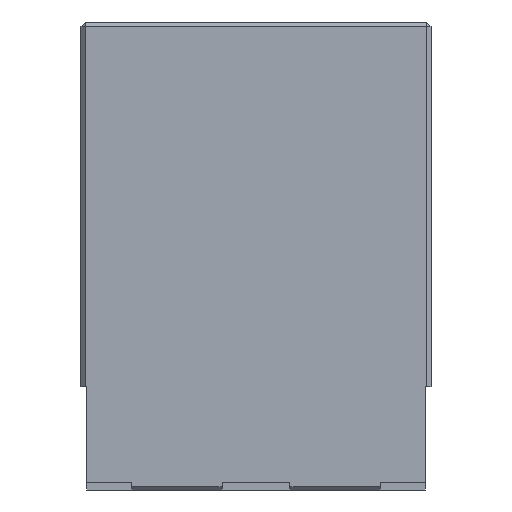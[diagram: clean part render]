
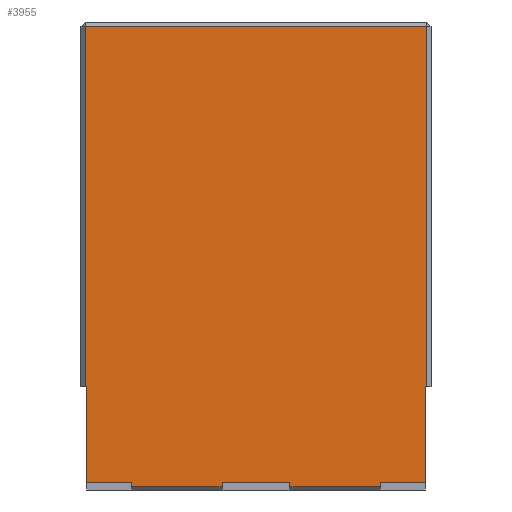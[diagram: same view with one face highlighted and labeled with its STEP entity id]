
A CAD part, front view. The second image highlights one B-rep face of the part: STEP entity #3955.
In plain terms, the highlighted planar face has unit normal (0, -1, 0).
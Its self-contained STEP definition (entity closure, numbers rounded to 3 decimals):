
#78=DIRECTION('',(-1.,0.,0.));
#79=VECTOR('',#78,0.05);
#80=CARTESIAN_POINT('',(7.525,-12.55,-16.1));
#81=LINE('',#80,#79);
#82=DIRECTION('',(1.,0.,0.));
#83=VECTOR('',#82,1.995);
#84=CARTESIAN_POINT('',(-7.475,-12.55,-20.3));
#85=LINE('',#84,#83);
#98=DIRECTION('',(0.,0.,-1.));
#99=VECTOR('',#98,0.2);
#100=CARTESIAN_POINT('',(-5.48,-12.55,-20.3));
#101=LINE('',#100,#99);
#110=DIRECTION('',(1.,0.,0.));
#111=VECTOR('',#110,3.98);
#112=CARTESIAN_POINT('',(-5.48,-12.55,-20.5));
#113=LINE('',#112,#111);
#130=DIRECTION('',(0.,0.,1.));
#131=VECTOR('',#130,0.2);
#132=CARTESIAN_POINT('',(-1.5,-12.55,-20.5));
#133=LINE('',#132,#131);
#142=DIRECTION('',(1.,0.,0.));
#143=VECTOR('',#142,3.);
#144=CARTESIAN_POINT('',(-1.5,-12.55,-20.3));
#145=LINE('',#144,#143);
#154=DIRECTION('',(0.,0.,-1.));
#155=VECTOR('',#154,0.2);
#156=CARTESIAN_POINT('',(1.5,-12.55,-20.3));
#157=LINE('',#156,#155);
#166=DIRECTION('',(1.,0.,0.));
#167=VECTOR('',#166,3.98);
#168=CARTESIAN_POINT('',(1.5,-12.55,-20.5));
#169=LINE('',#168,#167);
#182=DIRECTION('',(0.,0.,1.));
#183=VECTOR('',#182,0.2);
#184=CARTESIAN_POINT('',(5.48,-12.55,-20.5));
#185=LINE('',#184,#183);
#194=DIRECTION('',(1.,0.,0.));
#195=VECTOR('',#194,1.995);
#196=CARTESIAN_POINT('',(5.48,-12.55,-20.3));
#197=LINE('',#196,#195);
#202=DIRECTION('',(0.,0.,1.));
#203=VECTOR('',#202,4.2);
#204=CARTESIAN_POINT('',(7.475,-12.55,-20.3));
#205=LINE('',#204,#203);
#338=DIRECTION('',(0.,0.,-1.));
#339=VECTOR('',#338,4.2);
#340=CARTESIAN_POINT('',(-7.475,-12.55,-16.1));
#341=LINE('',#340,#339);
#346=DIRECTION('',(1.,0.,0.));
#347=VECTOR('',#346,0.05);
#348=CARTESIAN_POINT('',(-7.525,-12.55,-16.1));
#349=LINE('',#348,#347);
#406=DIRECTION('',(0.,0.,1.));
#407=VECTOR('',#406,15.9);
#408=CARTESIAN_POINT('',(7.525,-12.55,-16.1));
#409=LINE('',#408,#407);
#426=DIRECTION('',(-1.,0.,0.));
#427=VECTOR('',#426,15.05);
#428=CARTESIAN_POINT('',(7.525,-12.55,-0.2));
#429=LINE('',#428,#427);
#462=DIRECTION('',(0.,0.,-1.));
#463=VECTOR('',#462,15.9);
#464=CARTESIAN_POINT('',(-7.525,-12.55,-0.2));
#465=LINE('',#464,#463);
#2994=CARTESIAN_POINT('',(7.525,-12.55,-16.1));
#2996=VERTEX_POINT('',#2994);
#3002=CARTESIAN_POINT('',(7.475,-12.55,-16.1));
#3003=VERTEX_POINT('',#3002);
#3004=CARTESIAN_POINT('',(-7.475,-12.55,-20.3));
#3005=CARTESIAN_POINT('',(-5.48,-12.55,-20.3));
#3006=VERTEX_POINT('',#3004);
#3007=VERTEX_POINT('',#3005);
#3008=CARTESIAN_POINT('',(-7.475,-12.55,-16.1));
#3009=VERTEX_POINT('',#3008);
#3010=CARTESIAN_POINT('',(-7.525,-12.55,-16.1));
#3011=VERTEX_POINT('',#3010);
#3012=CARTESIAN_POINT('',(5.48,-12.55,-20.3));
#3013=CARTESIAN_POINT('',(7.475,-12.55,-20.3));
#3014=VERTEX_POINT('',#3012);
#3015=VERTEX_POINT('',#3013);
#3016=CARTESIAN_POINT('',(5.48,-12.55,-20.5));
#3017=VERTEX_POINT('',#3016);
#3018=CARTESIAN_POINT('',(1.5,-12.55,-20.3));
#3019=CARTESIAN_POINT('',(1.5,-12.55,-20.5));
#3020=VERTEX_POINT('',#3018);
#3021=VERTEX_POINT('',#3019);
#3022=CARTESIAN_POINT('',(-1.5,-12.55,-20.3));
#3023=VERTEX_POINT('',#3022);
#3024=CARTESIAN_POINT('',(-1.5,-12.55,-20.5));
#3025=VERTEX_POINT('',#3024);
#3026=CARTESIAN_POINT('',(-5.48,-12.55,-20.5));
#3027=VERTEX_POINT('',#3026);
#3264=CARTESIAN_POINT('',(7.525,-12.55,-0.2));
#3265=VERTEX_POINT('',#3264);
#3272=CARTESIAN_POINT('',(-7.525,-12.55,-0.2));
#3273=VERTEX_POINT('',#3272);
#3917=CARTESIAN_POINT('',(0.,-12.55,-10.35));
#3918=DIRECTION('',(0.,1.,0.));
#3919=DIRECTION('',(0.,0.,-1.));
#3920=AXIS2_PLACEMENT_3D('',#3917,#3918,#3919);
#3921=PLANE('',#3920);
#3923=ORIENTED_EDGE('',*,*,#3922,.F.);
#3925=ORIENTED_EDGE('',*,*,#3924,.F.);
#3927=ORIENTED_EDGE('',*,*,#3926,.F.);
#3929=ORIENTED_EDGE('',*,*,#3928,.F.);
#3931=ORIENTED_EDGE('',*,*,#3930,.F.);
#3933=ORIENTED_EDGE('',*,*,#3932,.F.);
#3934=ORIENTED_EDGE('',*,*,#3903,.T.);
#3936=ORIENTED_EDGE('',*,*,#3935,.F.);
#3938=ORIENTED_EDGE('',*,*,#3937,.F.);
#3940=ORIENTED_EDGE('',*,*,#3939,.F.);
#3942=ORIENTED_EDGE('',*,*,#3941,.F.);
#3944=ORIENTED_EDGE('',*,*,#3943,.F.);
#3946=ORIENTED_EDGE('',*,*,#3945,.F.);
#3948=ORIENTED_EDGE('',*,*,#3947,.F.);
#3950=ORIENTED_EDGE('',*,*,#3949,.F.);
#3952=ORIENTED_EDGE('',*,*,#3951,.F.);
#3953=EDGE_LOOP('',(#3923,#3925,#3927,#3929,#3931,#3933,#3934,#3936,#3938,#3940,
#3942,#3944,#3946,#3948,#3950,#3952));
#3954=FACE_OUTER_BOUND('',#3953,.F.);
#3955=ADVANCED_FACE('',(#3954),#3921,.F.);
#3903=EDGE_CURVE('',#2996,#3003,#81,.T.);
#3922=EDGE_CURVE('',#3006,#3007,#85,.T.);
#3924=EDGE_CURVE('',#3009,#3006,#341,.T.);
#3926=EDGE_CURVE('',#3011,#3009,#349,.T.);
#3928=EDGE_CURVE('',#3273,#3011,#465,.T.);
#3930=EDGE_CURVE('',#3265,#3273,#429,.T.);
#3932=EDGE_CURVE('',#2996,#3265,#409,.T.);
#3935=EDGE_CURVE('',#3015,#3003,#205,.T.);
#3937=EDGE_CURVE('',#3014,#3015,#197,.T.);
#3939=EDGE_CURVE('',#3017,#3014,#185,.T.);
#3941=EDGE_CURVE('',#3021,#3017,#169,.T.);
#3943=EDGE_CURVE('',#3020,#3021,#157,.T.);
#3945=EDGE_CURVE('',#3023,#3020,#145,.T.);
#3947=EDGE_CURVE('',#3025,#3023,#133,.T.);
#3949=EDGE_CURVE('',#3027,#3025,#113,.T.);
#3951=EDGE_CURVE('',#3007,#3027,#101,.T.);
